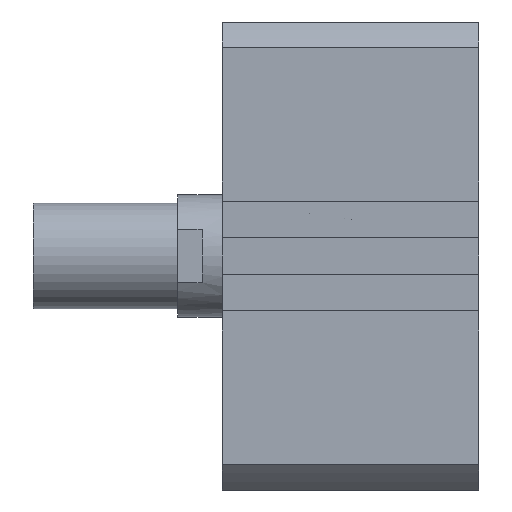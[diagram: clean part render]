
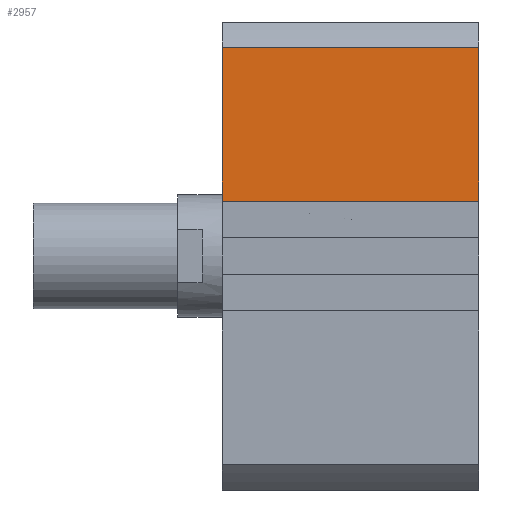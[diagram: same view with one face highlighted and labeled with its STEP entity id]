
A CAD part, left-side view. The second image highlights one B-rep face of the part: STEP entity #2957.
In plain terms, the highlighted planar face has unit normal (-1, 0, 0).
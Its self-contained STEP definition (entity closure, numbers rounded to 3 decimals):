
#81 = EDGE_CURVE ( 'NONE', #2054, #546, #3326, .T. ) ;
#185 = ORIENTED_EDGE ( 'NONE', *, *, #81, .T. ) ;
#237 = ORIENTED_EDGE ( 'NONE', *, *, #2811, .F. ) ;
#328 = CARTESIAN_POINT ( 'NONE',  ( -57.5, -63., 51.213 ) ) ;
#337 = DIRECTION ( 'NONE',  ( 0., 0., 1. ) ) ;
#497 = VECTOR ( 'NONE', #727, 1000. ) ;
#546 = VERTEX_POINT ( 'NONE', #328 ) ;
#640 = VERTEX_POINT ( 'NONE', #885 ) ;
#657 = CARTESIAN_POINT ( 'NONE',  ( -57.5, -63., 13.5 ) ) ;
#681 = VECTOR ( 'NONE', #2956, 1000. ) ;
#701 = VECTOR ( 'NONE', #874, 1000. ) ;
#727 = DIRECTION ( 'NONE',  ( 0., 1., 0. ) ) ;
#857 = LINE ( 'NONE', #982, #497 ) ;
#874 = DIRECTION ( 'NONE',  ( 0., 0., 1. ) ) ;
#885 = CARTESIAN_POINT ( 'NONE',  ( -57.5, 0., 51.213 ) ) ;
#920 = LINE ( 'NONE', #2711, #681 ) ;
#982 = CARTESIAN_POINT ( 'NONE',  ( -57.5, -63., 51.213 ) ) ;
#1212 = PLANE ( 'NONE',  #2741 ) ;
#1350 = EDGE_CURVE ( 'NONE', #2091, #640, #2958, .T. ) ;
#1436 = VECTOR ( 'NONE', #337, 1000. ) ;
#1488 = ORIENTED_EDGE ( 'NONE', *, *, #1350, .F. ) ;
#1495 = EDGE_LOOP ( 'NONE', ( #1488, #237, #185, #3209 ) ) ;
#2054 = VERTEX_POINT ( 'NONE', #657 ) ;
#2091 = VERTEX_POINT ( 'NONE', #3253 ) ;
#2179 = CARTESIAN_POINT ( 'NONE',  ( -57.5, -63., 0. ) ) ;
#2354 = EDGE_CURVE ( 'NONE', #546, #640, #857, .T. ) ;
#2417 = CARTESIAN_POINT ( 'NONE',  ( -57.5, 0., 0. ) ) ;
#2520 = CARTESIAN_POINT ( 'NONE',  ( -57.5, -63., 0. ) ) ;
#2576 = FACE_OUTER_BOUND ( 'NONE', #1495, .T. ) ;
#2711 = CARTESIAN_POINT ( 'NONE',  ( -57.5, -63., 13.5 ) ) ;
#2741 = AXIS2_PLACEMENT_3D ( 'NONE', #2520, #3035, #3282 ) ;
#2811 = EDGE_CURVE ( 'NONE', #2054, #2091, #920, .T. ) ;
#2956 = DIRECTION ( 'NONE',  ( 0., 1., 0. ) ) ;
#2957 = ADVANCED_FACE ( 'NONE', ( #2576 ), #1212, .T. ) ;
#2958 = LINE ( 'NONE', #2417, #701 ) ;
#3035 = DIRECTION ( 'NONE',  ( -1., 0., 0. ) ) ;
#3209 = ORIENTED_EDGE ( 'NONE', *, *, #2354, .T. ) ;
#3253 = CARTESIAN_POINT ( 'NONE',  ( -57.5, 0., 13.5 ) ) ;
#3282 = DIRECTION ( 'NONE',  ( 0., 0., 1. ) ) ;
#3326 = LINE ( 'NONE', #2179, #1436 ) ;
